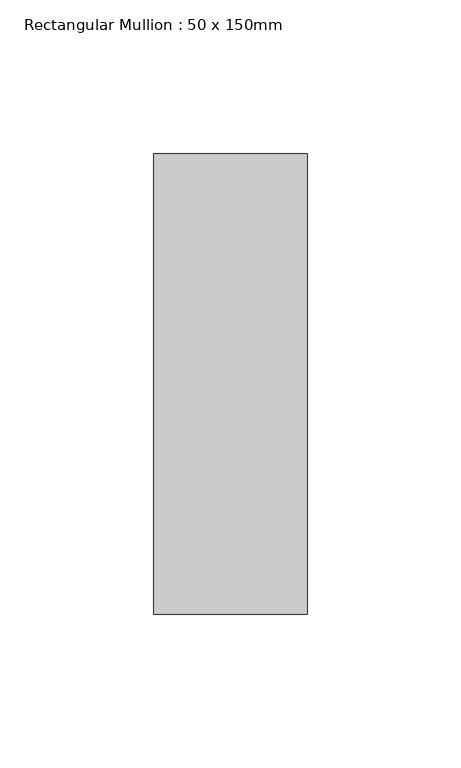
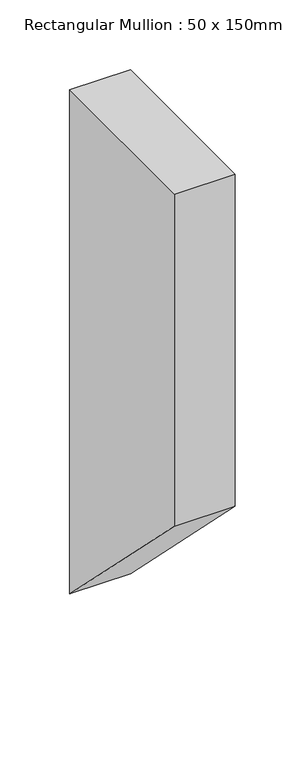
"""IFC4 building model written with IfcOpenShell, lengths in millimetres: member geometry, Rectangular Mullion : 50 x 150mm."""

from ifc_helpers import new_model, si_unit, frame, origin, place, context, project, spatial, polyline, outline, extrude, source, transform, mapped, element, save


def rectangular_mullion_50_x_150mm_b14c4fea(model_context):
    return source(origin(), model_context, "Body", "SweptSolid", [
        extrude(outline(polyline([(-75.0, 0.0), (75.0, 0.0), (75.0, -439.7256931), (-75.0, -289.7256931), (-75.0, 0.0)])), frame((-50.0, 0.0, 0.0), z_axis=(1.0, 0.0, 0.0), x_axis=(0.0, 1.0, 0.0)), (0.0, 0.0, 1.0), 50.0),
    ])


if __name__ == "__main__":
    model = new_model("IFC4")
    model_context = context("Model", 3, world=origin())
    ifc_project = project(units=[si_unit("LENGTHUNIT", "METRE", prefix="MILLI")], contexts=[model_context])
    site = spatial("IfcSite", under=ifc_project)
    building = spatial("IfcBuilding", under=site)
    placement = place(None, origin())
    rectangular_mullion_50_x_150mm_shape = rectangular_mullion_50_x_150mm_b14c4fea(model_context)
    element("IfcMember", 1, ObjectType="Rectangular Mullion : 50 x 150mm", at=placement, inside=building, context=model_context, shape_type="MappedRepresentation", body=[
        mapped(rectangular_mullion_50_x_150mm_shape, transform((0.0, 0.0, 0.0), x_axis=(1.0, 0.0, 0.0), y_axis=(0.0, 1.0, 0.0), z_axis=(0.0, 0.0, 1.0))),
    ])
    save(model, "model.ifc")
